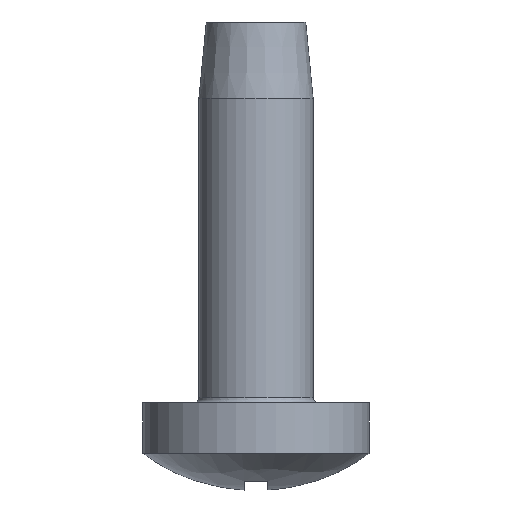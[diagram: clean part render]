
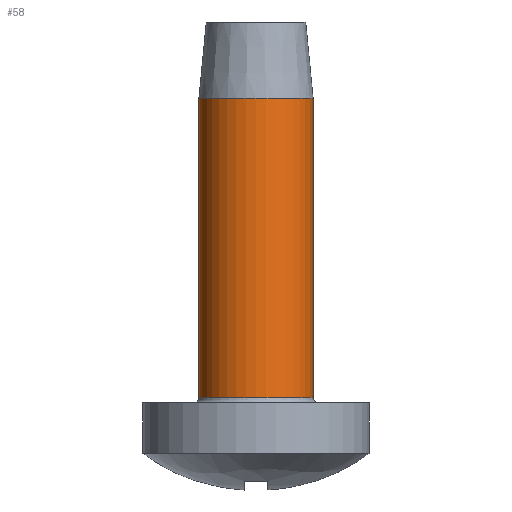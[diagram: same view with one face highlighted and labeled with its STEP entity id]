
A CAD part, front view. The second image highlights one B-rep face of the part: STEP entity #58.
In plain terms, the highlighted cylindrical face has radius 2.4 mm (diameter 4.8 mm), a partial arc.
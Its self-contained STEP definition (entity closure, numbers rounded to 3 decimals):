
#58 = ADVANCED_FACE ( 'NONE', ( #579 ), #596, .T. ) ;
#59 = EDGE_LOOP ( 'NONE', ( #68, #71, #61, #64 ) ) ;
#60 = VERTEX_POINT ( 'NONE', #654 ) ;
#61 = ORIENTED_EDGE ( 'NONE', *, *, #62, .T. ) ;
#62 = EDGE_CURVE ( 'NONE', #73, #63, #653, .T. ) ;
#63 = VERTEX_POINT ( 'NONE', #649 ) ;
#64 = ORIENTED_EDGE ( 'NONE', *, *, #65, .T. ) ;
#65 = EDGE_CURVE ( 'NONE', #63, #60, #647, .T. ) ;
#68 = ORIENTED_EDGE ( 'NONE', *, *, #69, .T. ) ;
#69 = EDGE_CURVE ( 'NONE', #60, #70, #687, .T. ) ;
#70 = VERTEX_POINT ( 'NONE', #679 ) ;
#71 = ORIENTED_EDGE ( 'NONE', *, *, #72, .T. ) ;
#72 = EDGE_CURVE ( 'NONE', #70, #73, #678, .T. ) ;
#73 = VERTEX_POINT ( 'NONE', #673 ) ;
#579 = FACE_OUTER_BOUND ( 'NONE', #59, .T. ) ;
#596 = CYLINDRICAL_SURFACE ( 'NONE', #657, 2.4 ) ;
#597 = CARTESIAN_POINT ( 'NONE',  ( 0., 0., 0.2 ) ) ;
#643 = DIRECTION ( 'NONE',  ( 1., 0., 0. ) ) ;
#644 = DIRECTION ( 'NONE',  ( 0., 0., -1. ) ) ;
#645 = CARTESIAN_POINT ( 'NONE',  ( 0., 0., 12.8 ) ) ;
#646 = AXIS2_PLACEMENT_3D ( 'NONE', #645, #644, #643 ) ;
#647 = CIRCLE ( 'NONE', #646, 2.4 ) ;
#649 = CARTESIAN_POINT ( 'NONE',  ( 2.4, 0., 12.8 ) ) ;
#650 = DIRECTION ( 'NONE',  ( 0., 0., 1. ) ) ;
#651 = VECTOR ( 'NONE', #650, 1000. ) ;
#652 = CARTESIAN_POINT ( 'NONE',  ( 2.4, 0., 6.4 ) ) ;
#653 = LINE ( 'NONE', #652, #651 ) ;
#654 = CARTESIAN_POINT ( 'NONE',  ( -2.4, 0., 12.8 ) ) ;
#655 = DIRECTION ( 'NONE',  ( 1., 0., 0. ) ) ;
#656 = DIRECTION ( 'NONE',  ( 0., 0., 1. ) ) ;
#657 = AXIS2_PLACEMENT_3D ( 'NONE', #597, #656, #655 ) ;
#673 = CARTESIAN_POINT ( 'NONE',  ( 2.4, 0., 0.2 ) ) ;
#674 = DIRECTION ( 'NONE',  ( 1., 0., 0. ) ) ;
#675 = DIRECTION ( 'NONE',  ( 0., 0., 1. ) ) ;
#676 = CARTESIAN_POINT ( 'NONE',  ( 0., 0., 0.2 ) ) ;
#677 = AXIS2_PLACEMENT_3D ( 'NONE', #676, #675, #674 ) ;
#678 = CIRCLE ( 'NONE', #677, 2.4 ) ;
#679 = CARTESIAN_POINT ( 'NONE',  ( -2.4, 0., 0.2 ) ) ;
#680 = DIRECTION ( 'NONE',  ( 0., 0., -1. ) ) ;
#681 = VECTOR ( 'NONE', #680, 1000. ) ;
#682 = CARTESIAN_POINT ( 'NONE',  ( -2.4, 0., 6.4 ) ) ;
#687 = LINE ( 'NONE', #682, #681 ) ;
